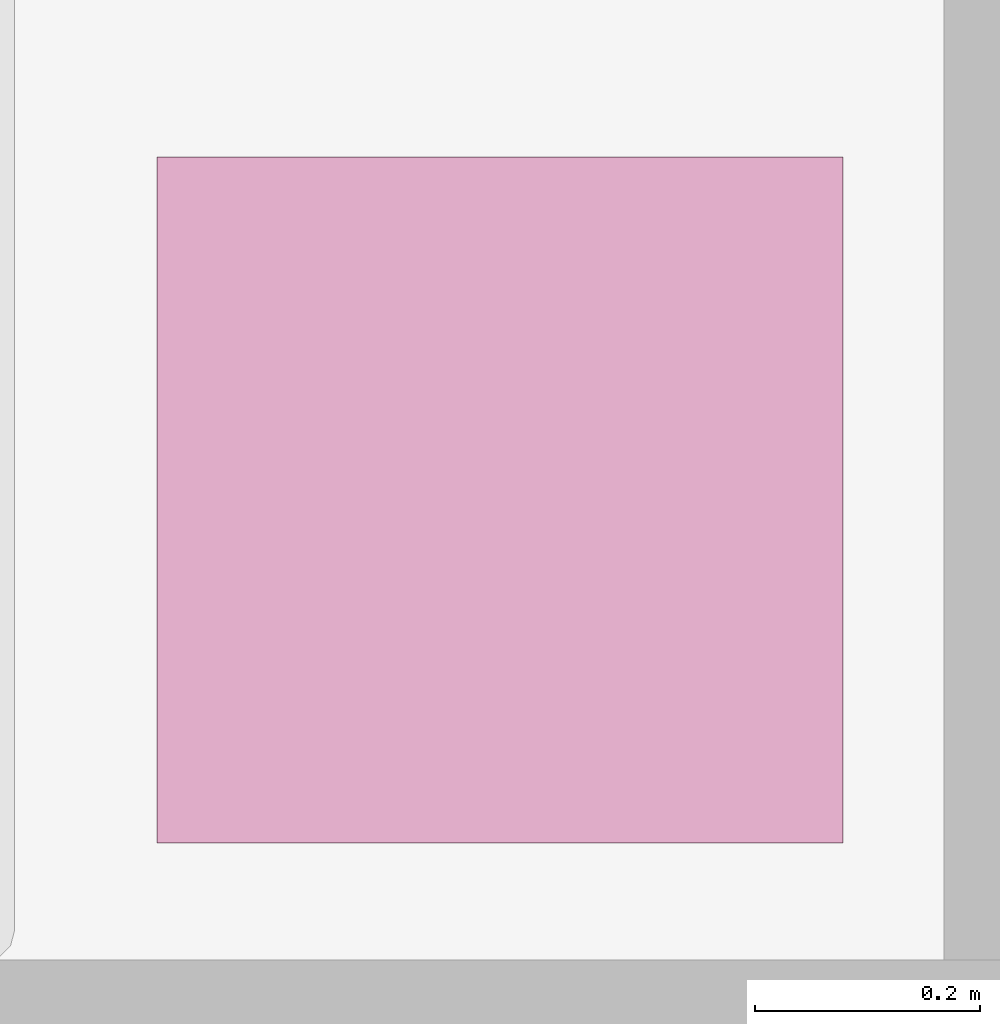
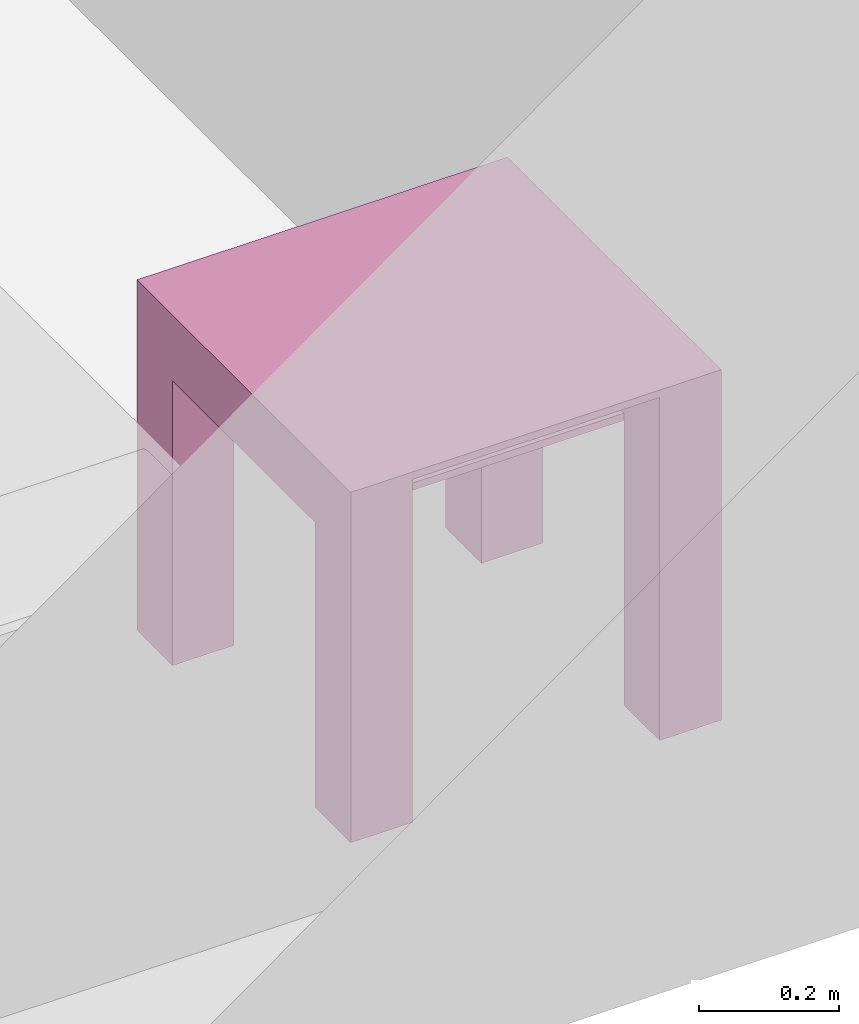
# One storey, part 4 of 8: 1 furnishing.
"""IFC4 building model written with IfcOpenShell, lengths in metres."""

from ifc_helpers import new_model, entity, si_unit, converted_unit, frame, origin, origin_2d_with_axis, place, context, project, spatial, polyline, rectangle, outline, extrude, source, transform, mapped, element, save


model = new_model("IFC4")

# Units and contexts
model_context = context("Model", 3, precision=1e-09, world=origin())
plan_context = context("Plan", 3, precision=1e-09, world=origin())
ifc_project = project(units=[si_unit("LENGTHUNIT", "METRE"), si_unit("AREAUNIT", "SQUARE_METRE"), si_unit("VOLUMEUNIT", "CUBIC_METRE"), converted_unit("PLANEANGLEUNIT", "DEGREE", entity("IfcRatioMeasure", 0.01745329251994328), si_unit("PLANEANGLEUNIT", "RADIAN"), dimensions=[0, 0, 0, 0, 0, 0, 0]), si_unit("TIMEUNIT", "SECOND")], contexts=[model_context, plan_context])

# Site, building, storey, space
site_placement = place(None, origin())
site = spatial("IfcSite", under=ifc_project, at=site_placement, Name="Default", CompositionType="ELEMENT")
building_placement = place(site_placement, origin())
building = spatial("IfcBuilding", under=site, at=building_placement, CompositionType="ELEMENT")
storey_placement = place(building_placement, frame((0.0, 0.0, 3.100000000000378)))
storey = spatial("IfcBuildingStorey", under=building, at=storey_placement, Name="Level 2", CompositionType="ELEMENT", Elevation=3.100000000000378)
space_placement = place(storey_placement, origin())
space = spatial("IfcSpace", under=storey, at=space_placement, Name="B202", CompositionType="ELEMENT", PredefinedType="INTERNAL")

# Furnishing
shared_shape = source(origin(), model_context, "Body", "SweptSolid", [
    extrude(rectangle(XDim=0.4067999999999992, YDim=0.4067999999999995, at=origin_2d_with_axis()), frame((0.01826576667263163, 0.09521107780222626, 0.4957000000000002), z_axis=(0.0, 0.0, 1.0), x_axis=(-1.0, 0.0, 0.0)), (0.0, 0.0, 1.0), 0.01270000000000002),
    extrude(outline(polyline([(-0.2732499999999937, -0.3050000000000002), (0.3240499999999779, -0.3050000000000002), (0.3240499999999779, 0.3049999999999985), (-0.2732499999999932, 0.3049999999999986), (-0.2732499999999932, 0.2034000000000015), (0.2224500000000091, 0.2034000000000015), (0.2224500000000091, -0.2033999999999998), (-0.2732499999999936, -0.2033999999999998), (-0.2732499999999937, -0.3050000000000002)])), frame((0.2216657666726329, 0.09521107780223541, 0.2732499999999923), z_axis=(1.0, 0.0, 0.0), x_axis=(0.0, 0.0, 1.0)), (0.0, 0.0, 1.0), 0.1016),
    extrude(outline(polyline([(-0.3050000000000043, -0.3240500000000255), (0.3049999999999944, -0.3240500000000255), (0.3049999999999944, 0.2732500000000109), (0.2034000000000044, 0.2732500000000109), (0.2034000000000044, -0.2224499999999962), (-0.2033999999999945, -0.2224499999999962), (-0.2033999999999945, 0.2732500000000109), (-0.3050000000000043, 0.2732500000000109), (-0.3050000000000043, -0.3240500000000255)])), frame((-0.2867342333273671, 0.09521107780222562, 0.2732500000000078), z_axis=(1.0, 0.0, 0.0), x_axis=(0.0, -1.0, 0.0)), (0.0, 0.0, 1.0), 0.1016),
    extrude(rectangle(XDim=0.4067999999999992, YDim=0.4067999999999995, at=origin_2d_with_axis()), frame((0.01826576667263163, 0.09521107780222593, 0.5973000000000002), z_axis=(0.0, 0.0, 1.0), x_axis=(-1.0, 0.0, 0.0)), (0.0, 0.0, 1.0), 0.01270000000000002),
    extrude(outline(polyline([(-0.3050000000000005, -0.3050000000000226), (0.3050000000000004, -0.3050000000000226), (0.3050000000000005, 0.3050000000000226), (-0.3050000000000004, 0.3050000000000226), (-0.3050000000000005, -0.3050000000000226)]), holes=[polyline([(-0.203399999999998, -0.2033999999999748), (-0.2033999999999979, 0.2034000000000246), (0.2034000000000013, 0.2034000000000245), (0.2034000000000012, -0.2033999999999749), (-0.203399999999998, -0.2033999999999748)])]), frame((0.01826576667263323, 0.09521107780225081, 0.5973000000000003), z_axis=(0.0, 0.0, 1.0), x_axis=(-1.0, 0.0, 0.0)), (0.0, 0.0, 1.0), 0.01269999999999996),
])
furnishing_placement = place(space_placement, frame((3.711734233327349, -17.06921107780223, 0.01899999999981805)))
element("IfcFurnishingElement", 1, at=furnishing_placement, inside=space, Name="M_Table-Coffee:0610 x 0610 x 0610mm:0610 x 0610 x 0610mm", ObjectType="0610 x 0610 x 0610mm", context=model_context, shape_type="MappedRepresentation", body=[
    mapped(shared_shape, transform((0.0, 0.0, 0.0), scale=1.0)),
])

save(model, "model.ifc")
